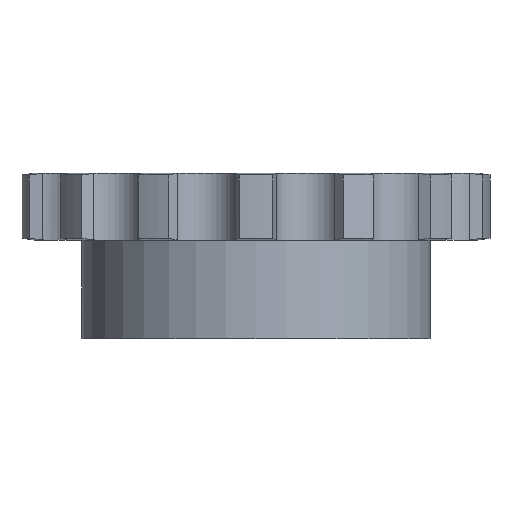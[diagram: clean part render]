
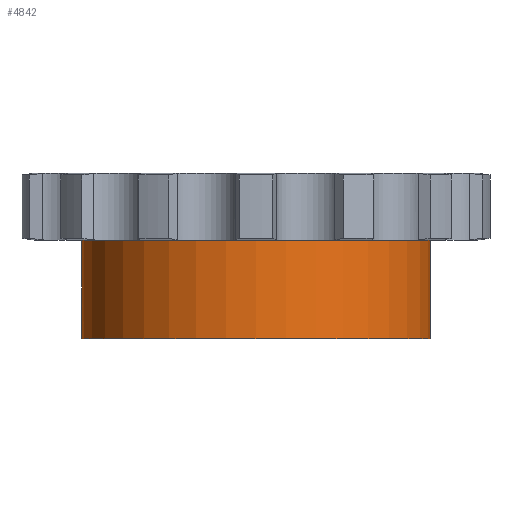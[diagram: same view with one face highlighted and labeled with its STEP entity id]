
A CAD part, front view. The second image highlights one B-rep face of the part: STEP entity #4842.
In plain terms, the highlighted cylindrical face has radius 42 mm (diameter 84 mm), a partial arc.
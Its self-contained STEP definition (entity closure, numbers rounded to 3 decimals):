
#943=CARTESIAN_POINT('',(0.,0.,-8.1));
#944=DIRECTION('',(0.,0.,1.));
#945=DIRECTION('',(-1.,0.,0.));
#946=AXIS2_PLACEMENT_3D('',#943,#944,#945);
#2263=CARTESIAN_POINT('',(-42.,0.,
-18.));
#2285=DIRECTION('',(0.,0.,1.));
#2286=VECTOR('',#2285,23.8);
#2287=CARTESIAN_POINT('',(42.,0.,-31.9));
#2288=LINE('',#2287,#2286);
#2402=CARTESIAN_POINT('',(-42.,0.,
-18.));
#2403=CARTESIAN_POINT('',(-42.,-0.105,
-18.));
#2404=CARTESIAN_POINT('',(-41.999,-0.313,
-18.016));
#2405=CARTESIAN_POINT('',(-41.996,-0.626,
-18.09));
#2406=CARTESIAN_POINT('',(-41.99,-0.923,
-18.213));
#2407=CARTESIAN_POINT('',(-41.983,-1.196,
-18.379));
#2408=CARTESIAN_POINT('',(-41.976,-1.436,
-18.584));
#2409=CARTESIAN_POINT('',(-41.968,-1.642,
-18.824));
#2410=CARTESIAN_POINT('',(-41.961,-1.809,
-19.096));
#2411=CARTESIAN_POINT('',(-41.956,-1.93,
-19.39));
#2412=CARTESIAN_POINT('',(-41.952,-2.001,
-19.697));
#2413=CARTESIAN_POINT('',(-41.952,-2.017,
-19.899));
#2414=CARTESIAN_POINT('',(-41.952,-2.017,
-20.));
#2419=DIRECTION('',(0.,0.,1.));
#2420=VECTOR('',#2419,9.9);
#2421=CARTESIAN_POINT('',(-42.,0.,
-18.));
#2422=LINE('',#2421,#2420);
#2426=DIRECTION('',(0.,0.,1.));
#2427=VECTOR('',#2426,9.9);
#2428=CARTESIAN_POINT('',(-42.,0.,-31.9));
#2429=LINE('',#2428,#2427);
#2433=CARTESIAN_POINT('',(-41.952,-2.017,
-20.));
#2434=CARTESIAN_POINT('',(-41.952,-2.017,
-20.101));
#2435=CARTESIAN_POINT('',(-41.952,-2.002,
-20.302));
#2436=CARTESIAN_POINT('',(-41.956,-1.93,
-20.609));
#2437=CARTESIAN_POINT('',(-41.961,-1.809,
-20.902));
#2438=CARTESIAN_POINT('',(-41.968,-1.643,
-21.175));
#2439=CARTESIAN_POINT('',(-41.976,-1.436,
-21.416));
#2440=CARTESIAN_POINT('',(-41.983,-1.196,
-21.621));
#2441=CARTESIAN_POINT('',(-41.99,-0.924,
-21.787));
#2442=CARTESIAN_POINT('',(-41.996,-0.627,
-21.91));
#2443=CARTESIAN_POINT('',(-41.999,-0.313,
-21.984));
#2444=CARTESIAN_POINT('',(-42.,-0.105,
-22.));
#2445=CARTESIAN_POINT('',(-42.,0.,
-22.));
#2458=CARTESIAN_POINT('',(0.,0.,-31.9));
#2459=DIRECTION('',(0.,0.,-1.));
#2460=DIRECTION('',(1.,0.,0.));
#2461=AXIS2_PLACEMENT_3D('',#2458,#2459,#2460);
#2795=CARTESIAN_POINT('',(-42.,0.,-31.9));
#2796=CARTESIAN_POINT('',(42.,0.,-31.9));
#2797=VERTEX_POINT('',#2795);
#2798=VERTEX_POINT('',#2796);
#2799=CARTESIAN_POINT('',(42.,0.,-8.1));
#2800=VERTEX_POINT('',#2799);
#2801=CARTESIAN_POINT('',(-42.,0.,-8.1));
#2802=VERTEX_POINT('',#2801);
#2954=VERTEX_POINT('',#2263);
#2957=VERTEX_POINT('',#2414);
#2959=VERTEX_POINT('',#2445);
#4826=CARTESIAN_POINT('',(0.,0.,8.1));
#4827=DIRECTION('',(0.,0.,1.));
#4828=DIRECTION('',(1.,0.,0.));
#4829=AXIS2_PLACEMENT_3D('',#4826,#4827,#4828);
#4830=CYLINDRICAL_SURFACE('',#4829,42.);
#4831=ORIENTED_EDGE('',*,*,#4816,.F.);
#4832=ORIENTED_EDGE('',*,*,#4455,.T.);
#4833=ORIENTED_EDGE('',*,*,#3833,.T.);
#4834=ORIENTED_EDGE('',*,*,#4452,.F.);
#4836=ORIENTED_EDGE('',*,*,#4835,.T.);
#4837=ORIENTED_EDGE('',*,*,#4448,.T.);
#4839=ORIENTED_EDGE('',*,*,#4838,.F.);
#4840=EDGE_LOOP('',(#4831,#4832,#4833,#4834,#4836,#4837,#4839));
#4841=FACE_OUTER_BOUND('',#4840,.F.);
#4842=ADVANCED_FACE('',(#4841),#4830,.T.);
#947=CIRCLE('',#946,42.);
#2415=B_SPLINE_CURVE_WITH_KNOTS('',3,(#2402,#2403,#2404,#2405,#2406,#2407,#2408,
#2409,#2410,#2411,#2412,#2413,#2414),.UNSPECIFIED.,.F.,.F.,(4,1,1,1,1,1,1,1,1,1,
4),(0.,0.1,0.2,0.3,0.4,0.5,0.6,0.7,0.8,0.9,1.),
.UNSPECIFIED.);
#2446=B_SPLINE_CURVE_WITH_KNOTS('',3,(#2433,#2434,#2435,#2436,#2437,#2438,#2439,
#2440,#2441,#2442,#2443,#2444,#2445),.UNSPECIFIED.,.F.,.F.,(4,1,1,1,1,1,1,1,1,1,
4),(0.,0.1,0.2,0.3,0.4,0.5,0.6,0.7,0.8,0.9,1.),
.UNSPECIFIED.);
#2462=CIRCLE('',#2461,42.);
#3833=EDGE_CURVE('',#2802,#2800,#947,.T.);
#4448=EDGE_CURVE('',#2797,#2959,#2429,.T.);
#4452=EDGE_CURVE('',#2798,#2800,#2288,.T.);
#4455=EDGE_CURVE('',#2954,#2802,#2422,.T.);
#4816=EDGE_CURVE('',#2954,#2957,#2415,.T.);
#4835=EDGE_CURVE('',#2798,#2797,#2462,.T.);
#4838=EDGE_CURVE('',#2957,#2959,#2446,.T.);
